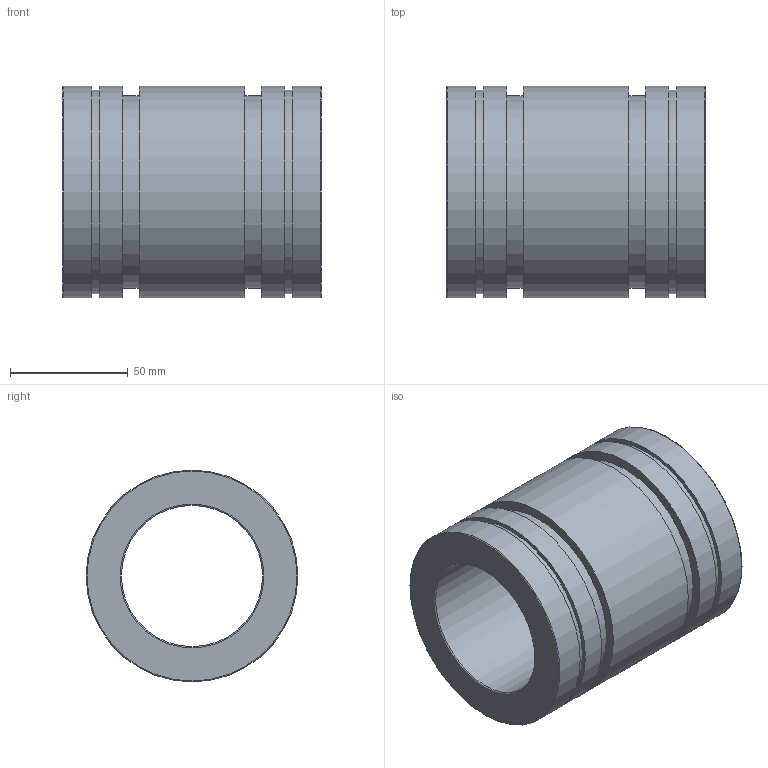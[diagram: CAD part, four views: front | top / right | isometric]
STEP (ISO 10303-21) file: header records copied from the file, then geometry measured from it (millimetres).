
FILE_DESCRIPTION(('STEP AP203'),'1');
FILE_NAME('//192.168.1.1/share/s-4 技術開発/s-4-4_CAD/s-4-4-3_見直し済み/PBC LINEAR修正済み/3D途中/FJ/FJ60.step','2022-03-24T06:51:42',(' '),(' '),'Spatial InterOp 3D',' ',' ');
FILE_SCHEMA(('CONFIG_CONTROL_DESIGN'));
Length unit declared in the file: millimetre
Products named in the file (1): 1
Bounding box: 110 x 90 x 90 mm (x, y, z)
Volume: 369990.7 mm3; surface area: 64686.1 mm2
Topology: 1 solids, 1 shells, 24 faces, 38 edges, 24 vertices
Faces by surface type: cylinder 10, plane 10, torus 4
Full cylindrical faces by diameter (mm): 60 x1, 81.738 x2, 86.5 x2, 90 x5
Entity records: 532 total; most frequent: DIRECTION 98, CARTESIAN_POINT 73, AXIS2_PLACEMENT_3D 49, EDGE_LOOP 48, ORIENTED_EDGE 48, FACE_OUTER_BOUND 38, ADVANCED_FACE 24, EDGE_CURVE 24
